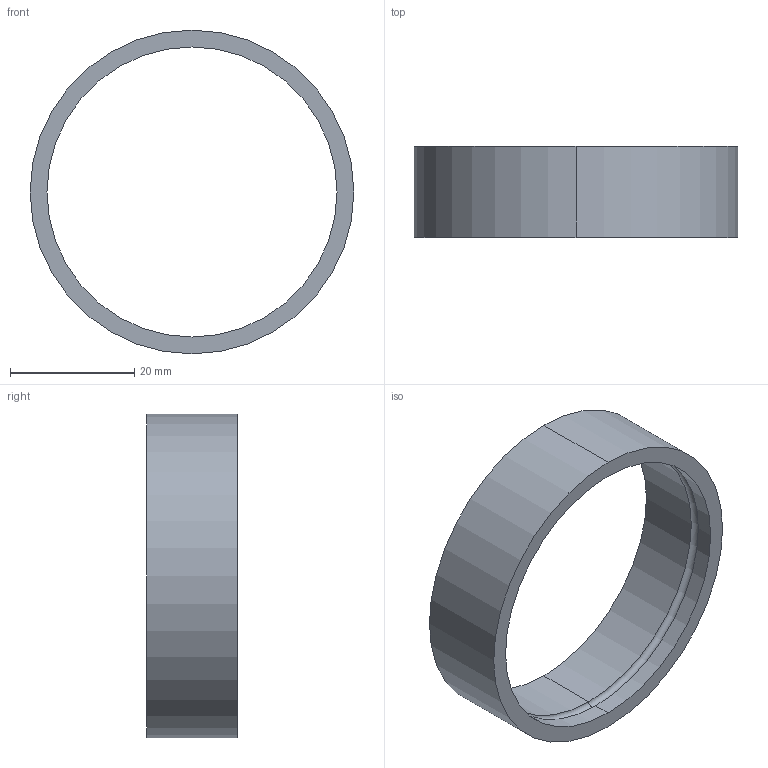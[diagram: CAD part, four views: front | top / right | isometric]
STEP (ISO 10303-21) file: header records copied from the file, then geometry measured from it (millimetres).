
FILE_DESCRIPTION (( 'STEP AP214' ), '1' );
FILE_NAME ('縐諶耀倰釱.STEP', '2024-10-30T02:47:45', ( 'BBL' ), ( 'BBL' ), 'SwSTEP 2.0', 'SolidWorks 2024', '' );
FILE_SCHEMA (( 'AUTOMOTIVE_DESIGN' ));
Length unit declared in the file: millimetre
Products named in the file (1): 卡扣模型座
Bounding box: 52 x 14.6 x 52 mm (x, y, z)
Volume: 5956.1 mm3; surface area: 5500.6 mm2
Topology: 1 solids, 1 shells, 10 faces, 20 edges, 12 vertices
Faces by surface type: cylinder 6, torus 2, plane 2
Entity records: 293 total; most frequent: DIRECTION 56, CARTESIAN_POINT 43, ORIENTED_EDGE 40, AXIS2_PLACEMENT_3D 25, EDGE_CURVE 20, CIRCLE 14, VERTEX_POINT 12, EDGE_LOOP 12
